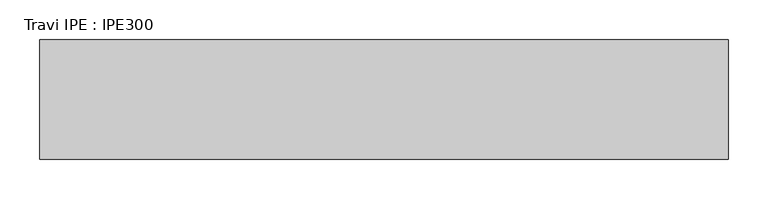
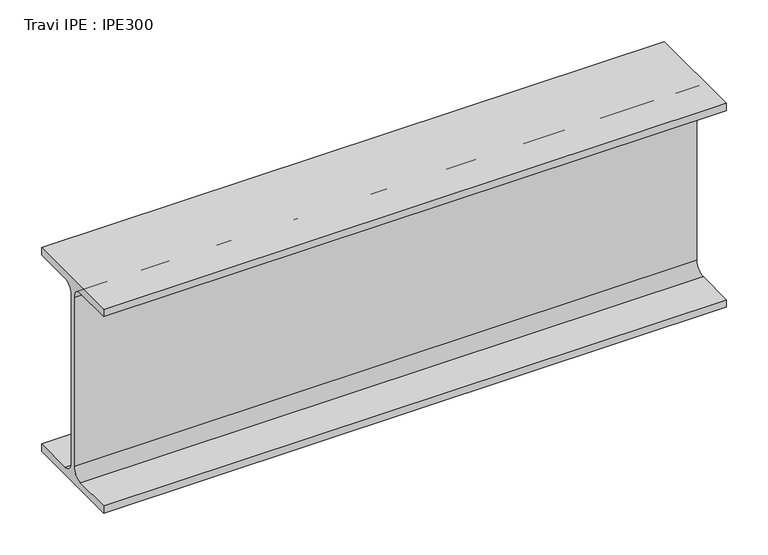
"""IFC4 building model written with IfcOpenShell, lengths in millimetres: beam geometry, Travi IPE : IPE300."""

from ifc_helpers import new_model, si_unit, point, frame, frame_2d, origin, place, context, project, spatial, polyline, circle_curve, trimmed, segment, composite_curve, outline, extrude, source, transform, mapped, element, save


def travi_ipe_ipe300_29a46d18(model_context):
    return source(origin(), model_context, "Body", "SweptSolid", [
        extrude(outline(composite_curve([segment(polyline([(75.0, -139.3), (75.0, -150.0), (-75.0, -150.0), (-75.0, -139.3), (-18.55, -139.3)]), True, "CONTINUOUS"), segment(trimmed(circle_curve(frame_2d((-18.55, -124.3)), 15.0), [point((-18.55, -139.3))], [point((-3.55, -124.3))], True, "CARTESIAN"), True, "CONTINUOUS"), segment(polyline([(-3.55, -124.3), (-3.55, 124.3)]), True, "CONTINUOUS"), segment(trimmed(circle_curve(frame_2d((-18.55, 124.3)), 15.0), [point((-3.55, 124.3))], [point((-18.55, 139.3))], True, "CARTESIAN"), True, "CONTINUOUS"), segment(polyline([(-18.55, 139.3), (-75.0, 139.3), (-75.0, 150.0), (75.0, 150.0), (75.0, 139.3), (18.55, 139.3)]), True, "CONTINUOUS"), segment(trimmed(circle_curve(frame_2d((18.55, 124.3)), 15.0), [point((18.55, 139.3))], [point((3.55, 124.3))], True, "CARTESIAN"), True, "CONTINUOUS"), segment(polyline([(3.55, 124.3), (3.55, -124.3)]), True, "CONTINUOUS"), segment(trimmed(circle_curve(frame_2d((18.55, -124.3)), 15.0), [point((3.55, -124.3))], [point((18.55, -139.3))], True, "CARTESIAN"), True, "CONTINUOUS"), segment(polyline([(18.55, -139.3), (75.0, -139.3)]), True, "CONTINUOUS")], self_intersect=False)), frame((-433.0, 0.0, 0.0), z_axis=(1.0, 0.0, 0.0), x_axis=(0.0, 1.0, 0.0)), (0.0, 0.0, 1.0), 866.0),
    ])


if __name__ == "__main__":
    model = new_model("IFC4")
    model_context = context("Model", 3, world=origin())
    ifc_project = project(units=[si_unit("LENGTHUNIT", "METRE", prefix="MILLI")], contexts=[model_context])
    site = spatial("IfcSite", under=ifc_project)
    building = spatial("IfcBuilding", under=site)
    placement = place(None, origin())
    travi_ipe_ipe300_shape = travi_ipe_ipe300_29a46d18(model_context)
    element("IfcBeam", 1, ObjectType="Travi IPE : IPE300", at=placement, inside=building, context=model_context, shape_type="MappedRepresentation", body=[
        mapped(travi_ipe_ipe300_shape, transform((0.0, 0.0, 0.0), x_axis=(1.0, 0.0, 0.0), y_axis=(0.0, 1.0, 0.0), z_axis=(0.0, 0.0, 1.0))),
    ])
    save(model, "model.ifc")
